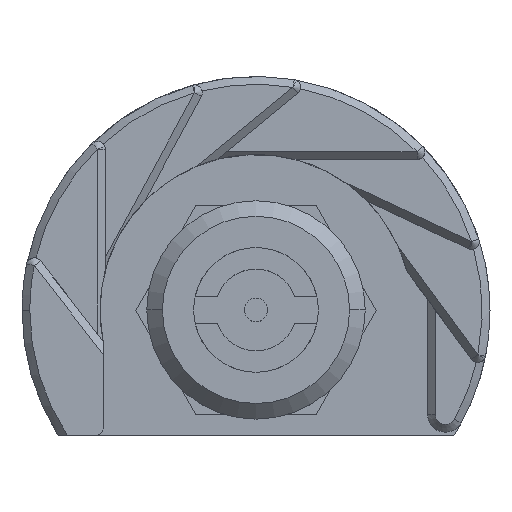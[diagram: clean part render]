
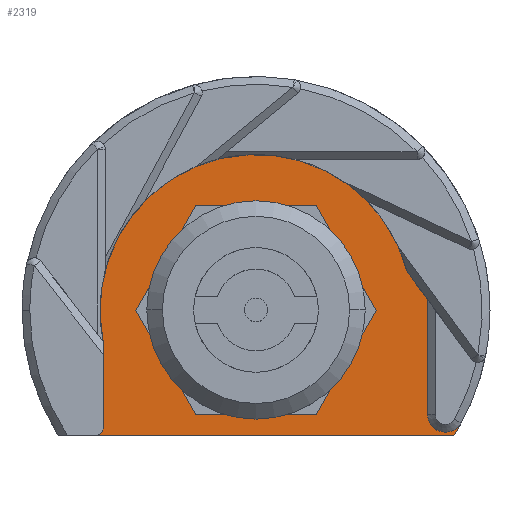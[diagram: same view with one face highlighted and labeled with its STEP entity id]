
A CAD part, top view. The second image highlights one B-rep face of the part: STEP entity #2319.
In plain terms, the highlighted planar face has unit normal (0, 0, 1).
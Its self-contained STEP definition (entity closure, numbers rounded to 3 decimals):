
#86 = ORIENTED_EDGE ( 'NONE', *, *, #2327, .T. ) ;
#87 = CIRCLE ( 'NONE', #557, 2.299 ) ;
#122 = CARTESIAN_POINT ( 'NONE',  ( 19.365, 5., 1.5 ) ) ;
#162 = ORIENTED_EDGE ( 'NONE', *, *, #2344, .T. ) ;
#185 = VECTOR ( 'NONE', #1015, 1000. ) ;
#222 = EDGE_CURVE ( 'NONE', #3781, #2126, #2423, .T. ) ;
#341 = CARTESIAN_POINT ( 'NONE',  ( -20.596, -15., 1.5 ) ) ;
#371 = CIRCLE ( 'NONE', #3878, 30. ) ;
#379 = EDGE_CURVE ( 'NONE', #1805, #3781, #3351, .T. ) ;
#498 = AXIS2_PLACEMENT_3D ( 'NONE', #652, #986, #1329 ) ;
#557 = AXIS2_PLACEMENT_3D ( 'NONE', #4169, #2277, #662 ) ;
#558 = CARTESIAN_POINT ( 'NONE',  ( 0., 0., 1.5 ) ) ;
#639 = VERTEX_POINT ( 'NONE', #2903 ) ;
#640 = CARTESIAN_POINT ( 'NONE',  ( 9.5, 0., 1.5 ) ) ;
#652 = CARTESIAN_POINT ( 'NONE',  ( 0., 0., 1.5 ) ) ;
#662 = DIRECTION ( 'NONE',  ( 1., 0., 0. ) ) ;
#717 = CARTESIAN_POINT ( 'NONE',  ( -20.596, -16., 1.5 ) ) ;
#754 = VERTEX_POINT ( 'NONE', #122 ) ;
#763 = CARTESIAN_POINT ( 'NONE',  ( -19.596, -4., 1.5 ) ) ;
#776 = ORIENTED_EDGE ( 'NONE', *, *, #3651, .F. ) ;
#779 = VECTOR ( 'NONE', #2157, 1000. ) ;
#788 = DIRECTION ( 'NONE',  ( -1., 0., 0. ) ) ;
#827 = EDGE_CURVE ( 'NONE', #2293, #969, #2097, .T. ) ;
#873 = LINE ( 'NONE', #1873, #779 ) ;
#894 = ORIENTED_EDGE ( 'NONE', *, *, #222, .T. ) ;
#969 = VERTEX_POINT ( 'NONE', #640 ) ;
#986 = DIRECTION ( 'NONE',  ( 0., 0., 1. ) ) ;
#993 = CARTESIAN_POINT ( 'NONE',  ( -19.596, -15., 1.5 ) ) ;
#1004 = PLANE ( 'NONE',  #3538 ) ;
#1005 = EDGE_CURVE ( 'NONE', #639, #2044, #87, .T. ) ;
#1015 = DIRECTION ( 'NONE',  ( 0., 1., 0. ) ) ;
#1031 = EDGE_LOOP ( 'NONE', ( #3420, #776 ) ) ;
#1039 = LINE ( 'NONE', #1381, #185 ) ;
#1284 = FACE_BOUND ( 'NONE', #1031, .T. ) ;
#1313 = ORIENTED_EDGE ( 'NONE', *, *, #4134, .F. ) ;
#1329 = DIRECTION ( 'NONE',  ( 1., 0., 0. ) ) ;
#1381 = CARTESIAN_POINT ( 'NONE',  ( 22., 1.413, 1.5 ) ) ;
#1461 = ORIENTED_EDGE ( 'NONE', *, *, #1005, .T. ) ;
#1617 = DIRECTION ( 'NONE',  ( 0., 0., 1. ) ) ;
#1639 = CARTESIAN_POINT ( 'NONE',  ( -9.5, 0., 1.5 ) ) ;
#1805 = VERTEX_POINT ( 'NONE', #763 ) ;
#1830 = VECTOR ( 'NONE', #3983, 1000. ) ;
#1873 = CARTESIAN_POINT ( 'NONE',  ( 19.365, 5., 1.5 ) ) ;
#1982 = VERTEX_POINT ( 'NONE', #3911 ) ;
#1998 = AXIS2_PLACEMENT_3D ( 'NONE', #3493, #2250, #3331 ) ;
#2044 = VERTEX_POINT ( 'NONE', #3834 ) ;
#2097 = CIRCLE ( 'NONE', #2705, 9.5 ) ;
#2126 = VERTEX_POINT ( 'NONE', #717 ) ;
#2157 = DIRECTION ( 'NONE',  ( -0.592, 0.806, 0. ) ) ;
#2173 = DIRECTION ( 'NONE',  ( 0., 0., 1. ) ) ;
#2224 = DIRECTION ( 'NONE',  ( 1., 0., 0. ) ) ;
#2250 = DIRECTION ( 'NONE',  ( 0., 0., 1. ) ) ;
#2277 = DIRECTION ( 'NONE',  ( 0., 0., -1. ) ) ;
#2287 = ORIENTED_EDGE ( 'NONE', *, *, #379, .T. ) ;
#2293 = VERTEX_POINT ( 'NONE', #1639 ) ;
#2319 = ADVANCED_FACE ( 'NONE', ( #1284, #2568 ), #1004, .T. ) ;
#2325 = DIRECTION ( 'NONE',  ( -1., 0., 0. ) ) ;
#2327 = EDGE_CURVE ( 'NONE', #1982, #639, #371, .T. ) ;
#2344 = EDGE_CURVE ( 'NONE', #754, #1805, #2929, .T. ) ;
#2396 = CIRCLE ( 'NONE', #1998, 9.5 ) ;
#2423 = CIRCLE ( 'NONE', #2611, 1. ) ;
#2450 = CARTESIAN_POINT ( 'NONE',  ( 22., 1.413, 1.5 ) ) ;
#2568 = FACE_OUTER_BOUND ( 'NONE', #3694, .T. ) ;
#2611 = AXIS2_PLACEMENT_3D ( 'NONE', #341, #3289, #2325 ) ;
#2705 = AXIS2_PLACEMENT_3D ( 'NONE', #558, #2173, #4106 ) ;
#2850 = CARTESIAN_POINT ( 'NONE',  ( 0., 0., 1.5 ) ) ;
#2903 = CARTESIAN_POINT ( 'NONE',  ( 26.316, -14.404, 1.5 ) ) ;
#2929 = CIRCLE ( 'NONE', #498, 20. ) ;
#2934 = DIRECTION ( 'NONE',  ( 0., 0., 1. ) ) ;
#3064 = VERTEX_POINT ( 'NONE', #2450 ) ;
#3244 = CARTESIAN_POINT ( 'NONE',  ( 0., 0., 1.5 ) ) ;
#3263 = EDGE_CURVE ( 'NONE', #2044, #3064, #1039, .T. ) ;
#3287 = LINE ( 'NONE', #3670, #4096 ) ;
#3289 = DIRECTION ( 'NONE',  ( 0., 0., -1. ) ) ;
#3331 = DIRECTION ( 'NONE',  ( 1., 0., 0. ) ) ;
#3351 = LINE ( 'NONE', #3966, #1830 ) ;
#3420 = ORIENTED_EDGE ( 'NONE', *, *, #827, .F. ) ;
#3493 = CARTESIAN_POINT ( 'NONE',  ( 0., 0., 1.5 ) ) ;
#3538 = AXIS2_PLACEMENT_3D ( 'NONE', #2850, #1617, #2224 ) ;
#3576 = ORIENTED_EDGE ( 'NONE', *, *, #3905, .T. ) ;
#3651 = EDGE_CURVE ( 'NONE', #969, #2293, #2396, .T. ) ;
#3670 = CARTESIAN_POINT ( 'NONE',  ( -25.377, -16., 1.5 ) ) ;
#3679 = ORIENTED_EDGE ( 'NONE', *, *, #3263, .T. ) ;
#3694 = EDGE_LOOP ( 'NONE', ( #1313, #86, #1461, #3679, #3576, #162, #2287, #894 ) ) ;
#3781 = VERTEX_POINT ( 'NONE', #993 ) ;
#3834 = CARTESIAN_POINT ( 'NONE',  ( 22., -13.3, 1.5 ) ) ;
#3849 = DIRECTION ( 'NONE',  ( 1., 0., 0. ) ) ;
#3878 = AXIS2_PLACEMENT_3D ( 'NONE', #3244, #2934, #3849 ) ;
#3905 = EDGE_CURVE ( 'NONE', #3064, #754, #873, .T. ) ;
#3911 = CARTESIAN_POINT ( 'NONE',  ( 25.377, -16., 1.5 ) ) ;
#3966 = CARTESIAN_POINT ( 'NONE',  ( -19.596, -4., 1.5 ) ) ;
#3983 = DIRECTION ( 'NONE',  ( 0., -1., 0. ) ) ;
#4096 = VECTOR ( 'NONE', #788, 1000. ) ;
#4106 = DIRECTION ( 'NONE',  ( 1., 0., 0. ) ) ;
#4134 = EDGE_CURVE ( 'NONE', #1982, #2126, #3287, .T. ) ;
#4169 = CARTESIAN_POINT ( 'NONE',  ( 24.299, -13.3, 1.5 ) ) ;
